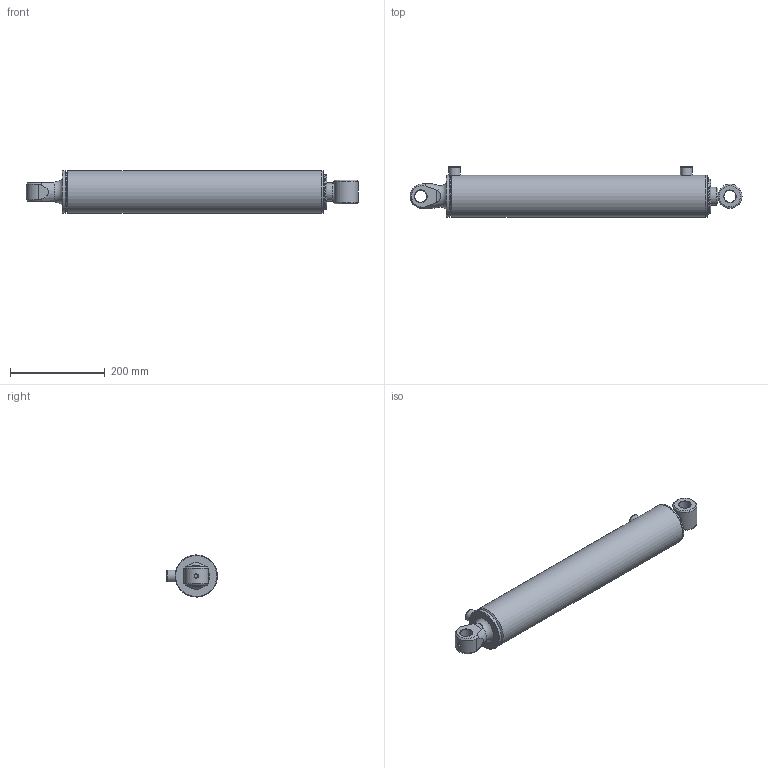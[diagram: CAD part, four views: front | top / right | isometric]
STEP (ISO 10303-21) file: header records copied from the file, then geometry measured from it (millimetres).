
FILE_DESCRIPTION(/* description */ ('Alibre Inc.'),/* implementation_level */ '2;1');
FILE_NAME(/* name */ 'export0',/* time_stamp */ '2016-08-16T10:01:31+12:00',/* author */ (''),/* organization */ (''),/* preprocessor_version */ 'ST-DEVELOPER v14',/* originating_system */ 'Alibre',/* authorisation */ '');
FILE_SCHEMA (('AUTOMOTIVE_DESIGN'));
Length unit declared in the file: centimetre
Bounding box: 700.13 x 106.9 x 88.9 mm (x, y, z)
Volume: 2034004.3 mm3; surface area: 465179.3 mm2
Topology: 12 solids, 12 shells, 157 faces, 332 edges, 209 vertices
Faces by surface type: cylinder 61, plane 57, cone 23, torus 13, sphere 2, bspline 1
Full cylindrical faces by diameter (mm): 7 x1, 8.3 x2, 8.8 x1, 9.525 x2, 15.25 x2, 23 x1, 23.622 x1, 25 x2, 25.4 x2, 25.451 x1, 38.1 x2, 38.18 x2, 44.45 x1, 46.9 x2, 47.62 x2, 50.8 x1, 60.33 x1, 69.2 x1, 70.36 x1, 71.6 x2, 72.57 x2, 72.87 x1, 74.83 x2, 76.09 x2, 76.1 x1, 76.2 x2, 79.4 x1, 88.9 x3
Entity records: 4365 total; most frequent: CARTESIAN_POINT 1210, DIRECTION 599, ORIENTED_EDGE 456, AXIS2_PLACEMENT_3D 310, FACE_BOUND 271, EDGE_LOOP 269, EDGE_CURVE 228, VERTEX_POINT 191
